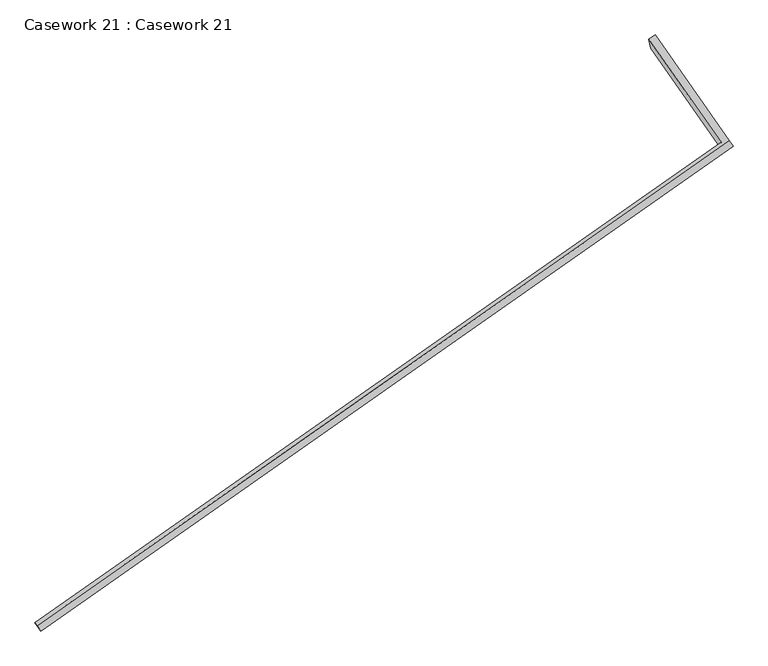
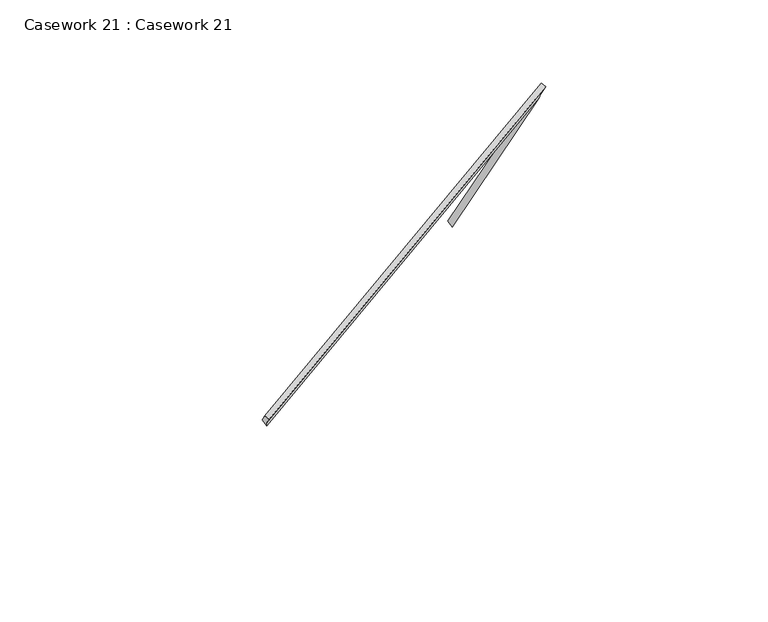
"""IFC4 building model written with IfcOpenShell, lengths in millimetres: furniture geometry, Casework 21 : Casework 21."""

import ifcopenshell
import ifcopenshell.guid

model = None  # the IFC model being written
_history = None  # IfcOwnerHistory: only IFC2X3 demands one
_inside = {}  # id of a spatial element -> (the spatial element, [elements in it])
_under = {}  # id of a project, library or spatial element -> (it, [spatial elements below it])
_declared = {}  # id of a project -> (the project, [libraries it declares])
_typed = {}  # id of a type object -> (the type object, [elements of that type])
_made_of = {}  # id of a material, layer set ... -> (it, [elements and type objects made of it])


def new_model(schema):
    """Start an empty IFC model of exactly this schema.

    Asked for "IFC4X3", IfcOpenShell would pick the latest addendum, in which some entities
    have other attributes; the version numbers below select the first issue.
    IFC2X3 requires an IfcOwnerHistory on every rooted entity: one is made here for all.
    """
    global model, _history
    if schema == "IFC4X3":
        model = ifcopenshell.file(schema_version=(4, 3, 0, 0))
    else:
        model = ifcopenshell.file(schema=schema)
    _inside.clear()
    _under.clear()
    _declared.clear()
    _typed.clear()
    _made_of.clear()
    _history = None
    if model.schema == "IFC2X3":
        org = make("IfcOrganization", Name="unknown")
        user = make(
            "IfcPersonAndOrganization",
            ThePerson=make("IfcPerson", FamilyName="unknown"),
            TheOrganization=org,
        )
        app = make(
            "IfcApplication",
            ApplicationDeveloper=org,
            Version="unknown",
            ApplicationFullName="unknown",
            ApplicationIdentifier="unknown",
        )
        _history = make(
            "IfcOwnerHistory",
            OwningUser=user,
            OwningApplication=app,
            ChangeAction="ADDED",
            CreationDate=0,
        )
    return model


def make(cls, **values):
    """One entity of the class cls with the attributes given. An attribute that is None is left unset."""
    return model.create_entity(
        cls, **{name: value for name, value in values.items() if value is not None}
    )


def rooted(cls, **values):
    """An entity with a GlobalId (a new one), such as an element, a storey or a relation."""
    return make(cls, GlobalId=ifcopenshell.guid.new(), OwnerHistory=_history, **values)


def si_unit(unit_type, name, prefix=None):
    """IfcSIUnit, for example si_unit("LENGTHUNIT", "METRE", prefix="MILLI")."""
    return make("IfcSIUnit", UnitType=unit_type, Prefix=prefix, Name=name)


def assignment(units):
    """IfcUnitAssignment: the units of a project."""
    return None if units is None else make("IfcUnitAssignment", Units=units)


def point(xyz):
    """IfcCartesianPoint."""
    return None if xyz is None else make("IfcCartesianPoint", Coordinates=xyz)


def direction(xyz):
    """IfcDirection."""
    return None if xyz is None else make("IfcDirection", DirectionRatios=xyz)


def frame(location, z_axis=None, x_axis=None):
    """IfcAxis2Placement3D, a coordinate frame: its origin and axes. An axis left out is left unset."""
    return make(
        "IfcAxis2Placement3D",
        Location=point(location),
        Axis=direction(z_axis),
        RefDirection=direction(x_axis),
    )


def origin():
    """The frame at (0, 0, 0) with its axes left unset."""
    return frame((0.0, 0.0, 0.0))


def place(relative_to, where):
    """IfcLocalPlacement: puts the frame where relative to a parent placement (None: the world)."""
    return make(
        "IfcLocalPlacement", PlacementRelTo=relative_to, RelativePlacement=where
    )


def context(
    kind, dimensions, precision=None, world=None, true_north=None, identifier=None
):
    """IfcGeometricRepresentationContext, for example the 3D "Model" context."""
    return make(
        "IfcGeometricRepresentationContext",
        ContextIdentifier=identifier,
        ContextType=kind,
        CoordinateSpaceDimension=dimensions,
        Precision=precision,
        WorldCoordinateSystem=world,
        TrueNorth=true_north,
    )


def project(units=None, contexts=None):
    """IfcProject with its units and contexts."""
    return rooted(
        "IfcProject",
        Name="project",
        RepresentationContexts=contexts,
        UnitsInContext=assignment(units),
    )


def spatial(cls, under=None, at=None, **own):
    """A site, building, storey or space (cls), placed at a placement, below another one or the project."""
    s = rooted(cls, ObjectPlacement=at, **own)
    if under is not None:
        _under.setdefault(under.id(), (under, []))[1].append(s)
    return s


def faces_of(points, faces, orient=None, outer=None):
    """IfcFace entities. A face is a list of loops; a loop is a list of indices into points, from 0.

    orient and outer hold one flag for each loop. By default every Orientation is true, the
    first loop of a face is its IfcFaceOuterBound and the others are IfcFaceBound.
    """
    made = []
    for i, loops in enumerate(faces):
        bounds = []
        for j, loop in enumerate(loops):
            is_outer = j == 0 if outer is None else outer[i][j]
            bounds.append(
                make(
                    "IfcFaceOuterBound" if is_outer else "IfcFaceBound",
                    Bound=make("IfcPolyLoop", Polygon=[points[k] for k in loop]),
                    Orientation=True if orient is None else orient[i][j],
                )
            )
        made.append(make("IfcFace", Bounds=bounds))
    return made


def faceted_brep(points, faces, orient=None, outer=None, voids=None):
    """IfcFacetedBrep: a solid bounded by flat faces; with voids (closed shells), ...WithVoids."""
    shared = [point(p) for p in points]
    hull = make("IfcClosedShell", CfsFaces=faces_of(shared, faces, orient, outer))
    if voids is None:
        return make("IfcFacetedBrep", Outer=hull)
    return make(
        "IfcFacetedBrepWithVoids",
        Outer=hull,
        Voids=[
            make(cls, CfsFaces=faces_of(shared, fs, o, b)) for cls, fs, o, b in voids
        ],
    )


def shape(context_of_items, identifier, shape_type, items):
    """IfcShapeRepresentation: the items that make up one representation, for example the "Body"."""
    return make(
        "IfcShapeRepresentation",
        ContextOfItems=context_of_items,
        RepresentationIdentifier=identifier,
        RepresentationType=shape_type,
        Items=items,
    )


def source(mapping_origin, context_of_items, identifier, shape_type, items):
    """IfcRepresentationMap: a shape defined once, which mapped items show again and again."""
    return make(
        "IfcRepresentationMap",
        MappingOrigin=mapping_origin,
        MappedRepresentation=shape(context_of_items, identifier, shape_type, items),
    )


def transform(
    local_origin,
    x_axis=None,
    y_axis=None,
    z_axis=None,
    scale=None,
    scale2=None,
    scale3=None,
    uniform=True,
):
    """IfcCartesianTransformationOperator3D, or its non-uniform kind. x_axis, y_axis, z_axis: its Axis1, 2, 3."""
    if uniform:
        return make(
            "IfcCartesianTransformationOperator3D",
            Axis1=direction(x_axis),
            Axis2=direction(y_axis),
            LocalOrigin=point(local_origin),
            Scale=scale,
            Axis3=direction(z_axis),
        )
    return make(
        "IfcCartesianTransformationOperator3DnonUniform",
        Axis1=direction(x_axis),
        Axis2=direction(y_axis),
        LocalOrigin=point(local_origin),
        Scale=scale,
        Axis3=direction(z_axis),
        Scale2=scale2,
        Scale3=scale3,
    )


def mapped(mapping_source, mapping_target):
    """IfcMappedItem: shows the shape of a source again, moved by a transform."""
    return make(
        "IfcMappedItem", MappingSource=mapping_source, MappingTarget=mapping_target
    )


def made_of(thing, what):
    """Note that an element or type object is made of a material, layer set ...; save() writes the relation."""
    if what is not None:
        _made_of.setdefault(what.id(), (what, []))[1].append(thing)
    return thing


def element(
    cls,
    number,
    at=None,
    inside=None,
    cuts=None,
    type_object=None,
    material=None,
    context=None,
    identifier="Body",
    shape_type=None,
    held_by="IfcProductDefinitionShape",
    body=None,
    shapes=None,
    **own,
):
    """One element of the class cls, such as IfcWall. Its Tag is "e" and its number.

    at: its placement. inside: the storey or other place that contains it. cuts: it is an
    opening in that element (IfcRelVoidsElement). A single representation is given by context,
    identifier, shape_type and body (its items); several are given by shapes. held_by: the class
    of the entity that holds the representations. save() writes the other relations.
    """
    e = rooted(cls, Tag="e%d" % number, ObjectPlacement=at, **own)
    if body is not None:
        shapes = [shape(context, identifier, shape_type, body)]
    if shapes is not None:
        e.Representation = make(held_by, Representations=shapes)
    if inside is not None:
        _inside.setdefault(inside.id(), (inside, []))[1].append(e)
    if cuts is not None:
        rooted(
            "IfcRelVoidsElement", RelatingBuildingElement=cuts, RelatedOpeningElement=e
        )
    if type_object is not None:
        _typed.setdefault(type_object.id(), (type_object, []))[1].append(e)
    return made_of(e, material)


def aggregate(whole, parts):
    """IfcRelAggregates: a whole, such as a stair, and the parts it consists of."""
    return rooted("IfcRelAggregates", RelatingObject=whole, RelatedObjects=parts)


def save(model, path):
    """Write the relations noted so far, then the file.

    IfcRelAggregates (storeys below a building ...), IfcRelContainedInSpatialStructure (elements
    in a storey), IfcRelDefinesByType, IfcRelAssociatesMaterial and IfcRelDeclares: one each for
    every whole, place, type object, material and project.
    """
    for whole, parts in _under.values():
        aggregate(whole, parts)
    for where, things in _inside.values():
        rooted(
            "IfcRelContainedInSpatialStructure",
            RelatedElements=things,
            RelatingStructure=where,
        )
    for kind, things in _typed.values():
        rooted("IfcRelDefinesByType", RelatedObjects=things, RelatingType=kind)
    for what, things in _made_of.values():
        rooted("IfcRelAssociatesMaterial", RelatedObjects=things, RelatingMaterial=what)
    for by, libraries in _declared.values():
        rooted("IfcRelDeclares", RelatingContext=by, RelatedDefinitions=libraries)
    model.write(path)


def casework_21_casework_21_3d17a38e(model_context):
    return source(origin(), model_context, "Body", "Brep", [
        faceted_brep([(-10166.3533791, 12995.6791278, 2646.2620288), (-10176.9348668, 12977.8776166, 2641.8681871), (-10184.4074231, 13019.2938251, 2661.5540703), (-10154.4401797, 13040.0315842, 2661.4706383), (-10137.5727758, 13015.5957151, 2646.1819005), (-9830.2784205, 12514.6167234, 3785.9172593), (-9845.7351984, 12503.793771, 3764.9909451), (-9848.7062693, 12538.7664904, 3799.9417005), (-13046.4001161, 10299.717154, 3850.7191332), (-13036.4850568, 10286.2916778, 3883.1158225), (-9809.2990084, 12545.9916761, 3831.8700716), (-9792.4316045, 12521.5558069, 3816.5813338), (-13019.6176528, 10261.8558087, 3867.8270847), (-13029.1400966, 10274.7496641, 3836.7132364), (-13029.3656484, 10274.591731, 3815.5450595)], [[[0, 1, 2, 3, 4]], [[1, 0, 5, 6]], [[2, 1, 6, 7]], [[3, 2, 7, 8, 9, 10]], [[4, 3, 10, 11]], [[0, 4, 11, 12, 13, 5]], [[13, 12, 9, 8, 14]], [[6, 5, 13, 14]], [[7, 6, 14, 8]], [[11, 10, 9, 12]]]),
    ])


if __name__ == "__main__":
    model = new_model("IFC4")
    model_context = context("Model", 3, world=origin())
    ifc_project = project(units=[si_unit("LENGTHUNIT", "METRE", prefix="MILLI")], contexts=[model_context])
    site = spatial("IfcSite", under=ifc_project)
    building = spatial("IfcBuilding", under=site)
    placement = place(None, origin())
    casework_21_casework_21_shape = casework_21_casework_21_3d17a38e(model_context)
    element("IfcFurniture", 1, ObjectType="Casework 21 : Casework 21", at=placement, inside=building, context=model_context, shape_type="MappedRepresentation", body=[
        mapped(casework_21_casework_21_shape, transform((0.0, 0.0, 0.0), x_axis=(1.0, 0.0, 0.0), y_axis=(0.0, 1.0, 0.0), z_axis=(0.0, 0.0, 1.0))),
    ])
    save(model, "model.ifc")
